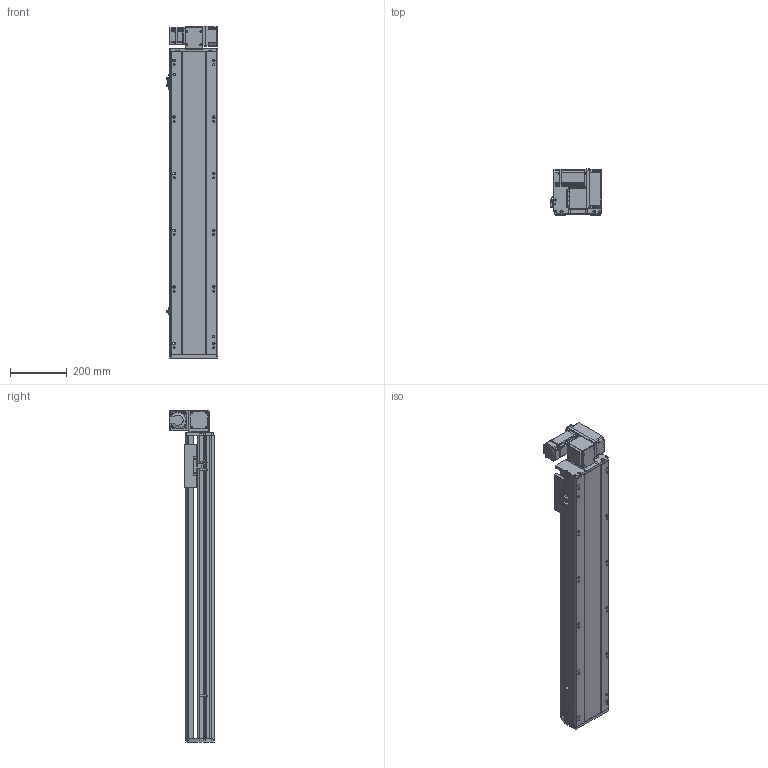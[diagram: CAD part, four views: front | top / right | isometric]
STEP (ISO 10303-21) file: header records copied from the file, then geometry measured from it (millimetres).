
FILE_DESCRIPTION (( 'STEP AP214' ), '1' );
FILE_NAME ('RTB17S-XX-800-RW-M40-C4.STEP', '2025-12-11T08:52:30', ( '' ), ( '' ), 'SwSTEP 2.0', 'SolidWorks 2018', '' );
FILE_SCHEMA (( 'AUTOMOTIVE_DESIGN' ));
Length unit declared in the file: millimetre
Products named in the file (14): RTB17S-XX-800-RW-M40-C4; RTB14-L-017P^RTB17S-RW-々湍釱蚾饜-400W_RTB17S-XX-XX-RW-M40-C4; OMRON EE-SX672 传感器^RTB17S-XX-XX-RW-M40-C4; RTB17S-L-004佪裝蹟譫蟀諉釱^RTB17S-XX-XX-RW-M40-C4; RMP17S-L-014-T20--々湍釱^RTB17S-RW-々湍釱蚾饜-400W_RTB17S-XX-XX-RW-M40-C4; RTB14-L-008-M20--萇儂啣^RTB17S-RW-々湍釱蚾饜-400W_RTB17S-XX-XX-RW-M40-C4; RTB17S-L-007奻裔^RTB17S-XX-XX-RW-M40-C4; RTB14-L-005P--轴承塑胶压盖^RTB17S-RW-皮带座装配-400W_RTB17S-XX-XX-RW-M40-C4; RTB17-R-011菁釱^RTB17S-XX-XX-RW-M40-C4; RTH13-BL-012覜茼え俋离^RTB17S-XX-XX-RW-M40-C4; RTB17S-L-001耜醱啣^RTB17S-XX-XX-RW-M40-C4; RTB14-L-018P^RTB17S-RW-々湍釱蚾饜-400W_RTB17S-XX-XX-RW-M40-C4; 400W侜督萇儂^RTB17S-XX-XX-RW-M40-C4; RTB17S-RW-々湍釱蚾饜-400W^RTB17S-XX-XX-RW-M40-C4
Assembly tree (16 placements, depth 3):
  RTB17S-XX-800-RW-M40-C4
    RTB17-R-011菁釱^RTB17S-XX-XX-RW-M40-C4
    RTB17S-L-007奻裔^RTB17S-XX-XX-RW-M40-C4
    OMRON EE-SX672 传感器^RTB17S-XX-XX-RW-M40-C4  x3
    RTB17S-L-001耜醱啣^RTB17S-XX-XX-RW-M40-C4
    400W侜督萇儂^RTB17S-XX-XX-RW-M40-C4
    RTB17S-L-004佪裝蹟譫蟀諉釱^RTB17S-XX-XX-RW-M40-C4
    RTH13-BL-012覜茼え俋离^RTB17S-XX-XX-RW-M40-C4
    RTB17S-RW-々湍釱蚾饜-400W^RTB17S-XX-XX-RW-M40-C4
      RMP17S-L-014-T20--々湍釱^RTB17S-RW-々湍釱蚾饜-400W_RTB17S-XX-XX-RW-M40-C4
      RTB14-L-005P--轴承塑胶压盖^RTB17S-RW-皮带座装配-400W_RTB17S-XX-XX-RW-M40-C4
      RTB14-L-008-M20--萇儂啣^RTB17S-RW-々湍釱蚾饜-400W_RTB17S-XX-XX-RW-M40-C4
      RTB14-L-017P^RTB17S-RW-々湍釱蚾饜-400W_RTB17S-XX-XX-RW-M40-C4  x2
      RTB14-L-018P^RTB17S-RW-々湍釱蚾饜-400W_RTB17S-XX-XX-RW-M40-C4
Bounding box: 183.5 x 160.5 x 1172.5 mm (x, y, z)
Volume: 10746006.8 mm3; surface area: 1319307.2 mm2
Topology: 15 solids, 15 shells, 2189 faces, 6033 edges, 3933 vertices
Faces by surface type: plane 1066, cylinder 675, bspline 301, cone 139, torus 8
Entity records: 61865 total; most frequent: CARTESIAN_POINT 17238, ORIENTED_EDGE 8910, DIRECTION 8306, EDGE_CURVE 4455, VERTEX_POINT 2921, AXIS2_PLACEMENT_3D 2851, VECTOR 2604, LINE 2604
